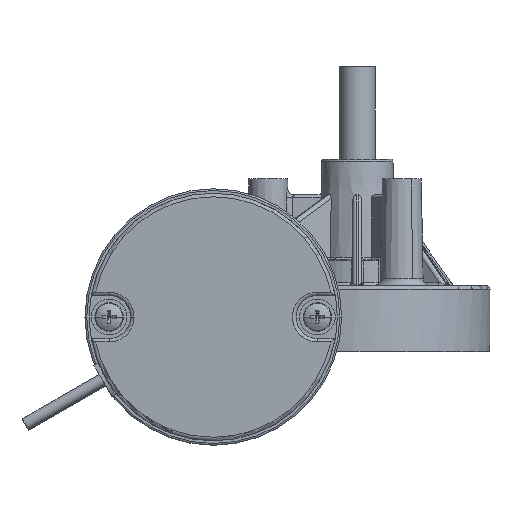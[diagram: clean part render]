
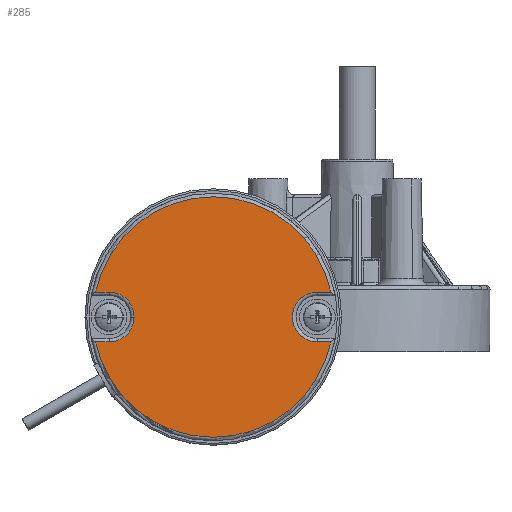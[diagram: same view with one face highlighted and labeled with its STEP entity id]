
A CAD part, front view. The second image highlights one B-rep face of the part: STEP entity #285.
In plain terms, the highlighted planar face has unit normal (0, -1, 0) as drawn and (0, 0, -1) by its records, which use the part's own axes.
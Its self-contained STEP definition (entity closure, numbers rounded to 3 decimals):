
#15 = EDGE_CURVE ( 'NONE', #14635, #6664, #1540, .T. ) ;
#122 = DIRECTION ( 'NONE',  ( 0., 0., -1. ) ) ;
#285 = ADVANCED_FACE ( 'NONE', ( #4430 ), #15029, .F. ) ;
#452 = CARTESIAN_POINT ( 'NONE',  ( 0., 0., 0. ) ) ;
#470 = CARTESIAN_POINT ( 'NONE',  ( -33.016, 7., 0. ) ) ;
#481 = AXIS2_PLACEMENT_3D ( 'NONE', #452, #122, #14689 ) ;
#1068 = VECTOR ( 'NONE', #13014, 1000. ) ;
#1540 = CIRCLE ( 'NONE', #481, 33.75 ) ;
#1809 = CIRCLE ( 'NONE', #2650, 7. ) ;
#2220 = EDGE_CURVE ( 'NONE', #5164, #15455, #8066, .T. ) ;
#2650 = AXIS2_PLACEMENT_3D ( 'NONE', #13832, #13781, #13726 ) ;
#2720 = EDGE_CURVE ( 'NONE', #11071, #5164, #6523, .T. ) ;
#3066 = AXIS2_PLACEMENT_3D ( 'NONE', #11897, #11856, #11801 ) ;
#3282 = EDGE_CURVE ( 'NONE', #5525, #11071, #4769, .T. ) ;
#3539 = CARTESIAN_POINT ( 'NONE',  ( -34.228, 7., 0. ) ) ;
#3864 = EDGE_CURVE ( 'NONE', #9496, #14008, #1809, .T. ) ;
#3900 = ORIENTED_EDGE ( 'NONE', *, *, #2720, .T. ) ;
#4024 = CARTESIAN_POINT ( 'NONE',  ( -29.228, -7., 0. ) ) ;
#4430 = FACE_OUTER_BOUND ( 'NONE', #5148, .T. ) ;
#4536 = CARTESIAN_POINT ( 'NONE',  ( 33.016, 7., 0. ) ) ;
#4754 = EDGE_CURVE ( 'NONE', #15455, #9496, #15545, .T. ) ;
#4769 = CIRCLE ( 'NONE', #8379, 7. ) ;
#5148 = EDGE_LOOP ( 'NONE', ( #14583, #14367, #13188, #11875, #3900, #9108, #10868, #10113, #10277 ) ) ;
#5164 = VERTEX_POINT ( 'NONE', #13501 ) ;
#5525 = VERTEX_POINT ( 'NONE', #8573 ) ;
#5728 = DIRECTION ( 'NONE',  ( 1., 0., 0. ) ) ;
#5810 = DIRECTION ( 'NONE',  ( 0., 0., 1. ) ) ;
#5822 = VERTEX_POINT ( 'NONE', #15405 ) ;
#5893 = CARTESIAN_POINT ( 'NONE',  ( 29.228, 0., 0. ) ) ;
#6113 = EDGE_CURVE ( 'NONE', #14008, #5822, #8643, .T. ) ;
#6290 = CARTESIAN_POINT ( 'NONE',  ( -33.016, -7., 0. ) ) ;
#6392 = VECTOR ( 'NONE', #13129, 1000. ) ;
#6523 = LINE ( 'NONE', #13056, #6392 ) ;
#6664 = VERTEX_POINT ( 'NONE', #4536 ) ;
#7365 = DIRECTION ( 'NONE',  ( 1., 0., 0. ) ) ;
#7573 = AXIS2_PLACEMENT_3D ( 'NONE', #14450, #14428, #14373 ) ;
#7887 = DIRECTION ( 'NONE',  ( 0., 0., -1. ) ) ;
#7916 = CARTESIAN_POINT ( 'NONE',  ( 29.228, -7., 0. ) ) ;
#7935 = CARTESIAN_POINT ( 'NONE',  ( 0., 0., 0. ) ) ;
#8066 = CIRCLE ( 'NONE', #14052, 33.75 ) ;
#8173 = CARTESIAN_POINT ( 'NONE',  ( -29.228, -7., 0. ) ) ;
#8379 = AXIS2_PLACEMENT_3D ( 'NONE', #5893, #5810, #5728 ) ;
#8389 = DIRECTION ( 'NONE',  ( -1., 0., 0. ) ) ;
#8573 = CARTESIAN_POINT ( 'NONE',  ( 29.228, 7., 0. ) ) ;
#8643 = CIRCLE ( 'NONE', #3066, 7. ) ;
#9108 = ORIENTED_EDGE ( 'NONE', *, *, #2220, .T. ) ;
#9496 = VERTEX_POINT ( 'NONE', #4024 ) ;
#9740 = CARTESIAN_POINT ( 'NONE',  ( -22.228, 0., 0. ) ) ;
#10113 = ORIENTED_EDGE ( 'NONE', *, *, #3864, .T. ) ;
#10277 = ORIENTED_EDGE ( 'NONE', *, *, #6113, .T. ) ;
#10868 = ORIENTED_EDGE ( 'NONE', *, *, #4754, .T. ) ;
#11071 = VERTEX_POINT ( 'NONE', #7916 ) ;
#11588 = VECTOR ( 'NONE', #8389, 1000. ) ;
#11772 = CARTESIAN_POINT ( 'NONE',  ( 0., 7., 0. ) ) ;
#11801 = DIRECTION ( 'NONE',  ( 1., 0., 0. ) ) ;
#11856 = DIRECTION ( 'NONE',  ( 0., 0., 1. ) ) ;
#11875 = ORIENTED_EDGE ( 'NONE', *, *, #3282, .T. ) ;
#11897 = CARTESIAN_POINT ( 'NONE',  ( -29.228, 0., 0. ) ) ;
#13014 = DIRECTION ( 'NONE',  ( -1., 0., 0. ) ) ;
#13056 = CARTESIAN_POINT ( 'NONE',  ( 0., -7., 0. ) ) ;
#13129 = DIRECTION ( 'NONE',  ( 1., 0., 0. ) ) ;
#13188 = ORIENTED_EDGE ( 'NONE', *, *, #15068, .T. ) ;
#13501 = CARTESIAN_POINT ( 'NONE',  ( 33.016, -7., 0. ) ) ;
#13726 = DIRECTION ( 'NONE',  ( 1., 0., 0. ) ) ;
#13781 = DIRECTION ( 'NONE',  ( 0., 0., 1. ) ) ;
#13832 = CARTESIAN_POINT ( 'NONE',  ( -29.228, 0., 0. ) ) ;
#14008 = VERTEX_POINT ( 'NONE', #9740 ) ;
#14052 = AXIS2_PLACEMENT_3D ( 'NONE', #7935, #7887, #7365 ) ;
#14103 = LINE ( 'NONE', #3539, #11588 ) ;
#14367 = ORIENTED_EDGE ( 'NONE', *, *, #15, .T. ) ;
#14373 = DIRECTION ( 'NONE',  ( 1., 0., 0. ) ) ;
#14377 = DIRECTION ( 'NONE',  ( 1., 0., 0. ) ) ;
#14428 = DIRECTION ( 'NONE',  ( 0., 0., 1. ) ) ;
#14450 = CARTESIAN_POINT ( 'NONE',  ( 0., 0., 0. ) ) ;
#14462 = EDGE_CURVE ( 'NONE', #5822, #14635, #14103, .T. ) ;
#14489 = LINE ( 'NONE', #11772, #1068 ) ;
#14583 = ORIENTED_EDGE ( 'NONE', *, *, #14462, .T. ) ;
#14635 = VERTEX_POINT ( 'NONE', #470 ) ;
#14689 = DIRECTION ( 'NONE',  ( 1., 0., 0. ) ) ;
#15029 = PLANE ( 'NONE',  #7573 ) ;
#15068 = EDGE_CURVE ( 'NONE', #6664, #5525, #14489, .T. ) ;
#15405 = CARTESIAN_POINT ( 'NONE',  ( -29.228, 7., 0. ) ) ;
#15455 = VERTEX_POINT ( 'NONE', #6290 ) ;
#15479 = VECTOR ( 'NONE', #14377, 1000. ) ;
#15545 = LINE ( 'NONE', #8173, #15479 ) ;
